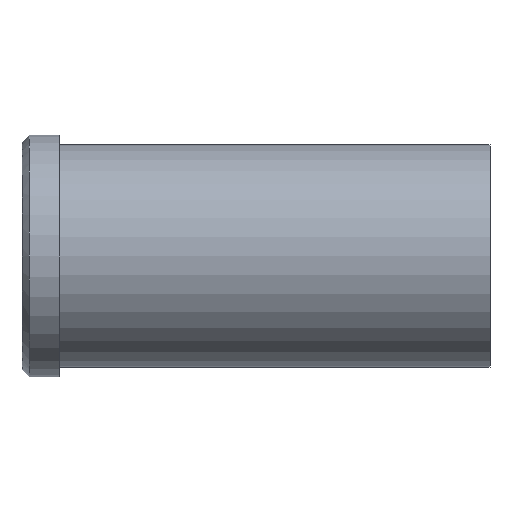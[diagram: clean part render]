
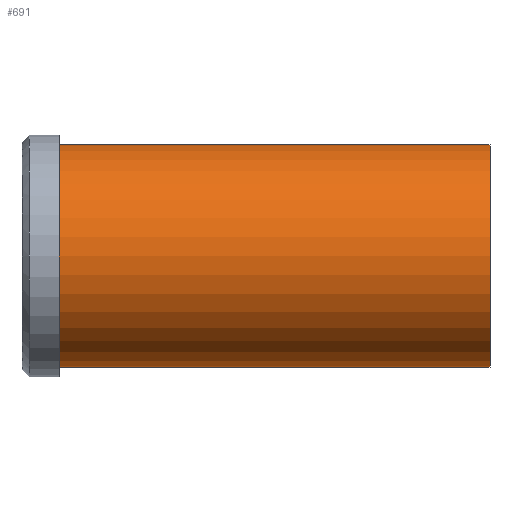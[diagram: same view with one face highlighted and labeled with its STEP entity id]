
A CAD part, front view. The second image highlights one B-rep face of the part: STEP entity #691.
In plain terms, the highlighted cylindrical face has radius 30 mm (diameter 60 mm), a partial arc.
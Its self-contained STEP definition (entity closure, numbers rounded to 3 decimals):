
#501=CARTESIAN_POINT('Vertex',(0.,0.,-30.)) ;
#506=CARTESIAN_POINT('Axis2P3D Location',(0.,0.,0.)) ;
#510=CARTESIAN_POINT('Vertex',(0.,-30.,0.)) ;
#513=CARTESIAN_POINT('Axis2P3D Location',(0.,0.,0.)) ;
#517=CARTESIAN_POINT('Vertex',(0.,0.,30.)) ;
#631=CARTESIAN_POINT('Line Origine',(116.,0.,30.)) ;
#635=CARTESIAN_POINT('Vertex',(116.,0.,30.)) ;
#649=CARTESIAN_POINT('Vertex',(116.,0.,-30.)) ;
#652=CARTESIAN_POINT('Line Origine',(116.,0.,-30.)) ;
#666=CARTESIAN_POINT('Axis2P3D Location',(116.,0.,0.)) ;
#671=CARTESIAN_POINT('Axis2P3D Location',(116.,0.,0.)) ;
#675=CARTESIAN_POINT('Vertex',(116.,-30.,0.)) ;
#678=CARTESIAN_POINT('Axis2P3D Location',(116.,0.,0.)) ;
#507=DIRECTION('Axis2P3D Direction',(1.,0.,-0.)) ;
#514=DIRECTION('Axis2P3D Direction',(1.,0.,-0.)) ;
#632=DIRECTION('Vector Direction',(-1.,0.,0.)) ;
#653=DIRECTION('Vector Direction',(-1.,0.,0.)) ;
#667=DIRECTION('Axis2P3D Direction',(-1.,-0.,-0.)) ;
#668=DIRECTION('Axis2P3D XDirection',(0.,0.,-1.)) ;
#672=DIRECTION('Axis2P3D Direction',(-1.,-0.,-0.)) ;
#679=DIRECTION('Axis2P3D Direction',(-1.,-0.,-0.)) ;
#508=AXIS2_PLACEMENT_3D('Circle Axis2P3D',#506,#507,$) ;
#515=AXIS2_PLACEMENT_3D('Circle Axis2P3D',#513,#514,$) ;
#669=AXIS2_PLACEMENT_3D('Cylinder Axis2P3D',#666,#667,#668) ;
#673=AXIS2_PLACEMENT_3D('Circle Axis2P3D',#671,#672,$) ;
#680=AXIS2_PLACEMENT_3D('Circle Axis2P3D',#678,#679,$) ;
#684=ORIENTED_EDGE('',*,*,#656,.T.) ;
#685=ORIENTED_EDGE('',*,*,#677,.F.) ;
#686=ORIENTED_EDGE('',*,*,#682,.F.) ;
#687=ORIENTED_EDGE('',*,*,#637,.T.) ;
#688=ORIENTED_EDGE('',*,*,#519,.T.) ;
#689=ORIENTED_EDGE('',*,*,#512,.T.) ;
#633=VECTOR('Line Direction',#632,1.) ;
#654=VECTOR('Line Direction',#653,1.) ;
#691=ADVANCED_FACE('353-50X126',(#690),#670,.T.) ;
#509=CIRCLE('generated circle',#508,30.) ;
#516=CIRCLE('generated circle',#515,30.) ;
#674=CIRCLE('generated circle',#673,30.) ;
#681=CIRCLE('generated circle',#680,30.) ;
#670=CYLINDRICAL_SURFACE('generated cylinder',#669,30.) ;
#512=EDGE_CURVE('',#511,#502,#509,.T.) ;
#519=EDGE_CURVE('',#518,#511,#516,.T.) ;
#637=EDGE_CURVE('',#636,#518,#634,.T.) ;
#656=EDGE_CURVE('',#502,#650,#655,.F.) ;
#677=EDGE_CURVE('',#676,#650,#674,.F.) ;
#682=EDGE_CURVE('',#636,#676,#681,.F.) ;
#683=EDGE_LOOP('',(#684,#685,#686,#687,#688,#689)) ;
#690=FACE_OUTER_BOUND('',#683,.T.) ;
#634=LINE('Line',#631,#633) ;
#655=LINE('Line',#652,#654) ;
#502=VERTEX_POINT('',#501) ;
#511=VERTEX_POINT('',#510) ;
#518=VERTEX_POINT('',#517) ;
#636=VERTEX_POINT('',#635) ;
#650=VERTEX_POINT('',#649) ;
#676=VERTEX_POINT('',#675) ;
